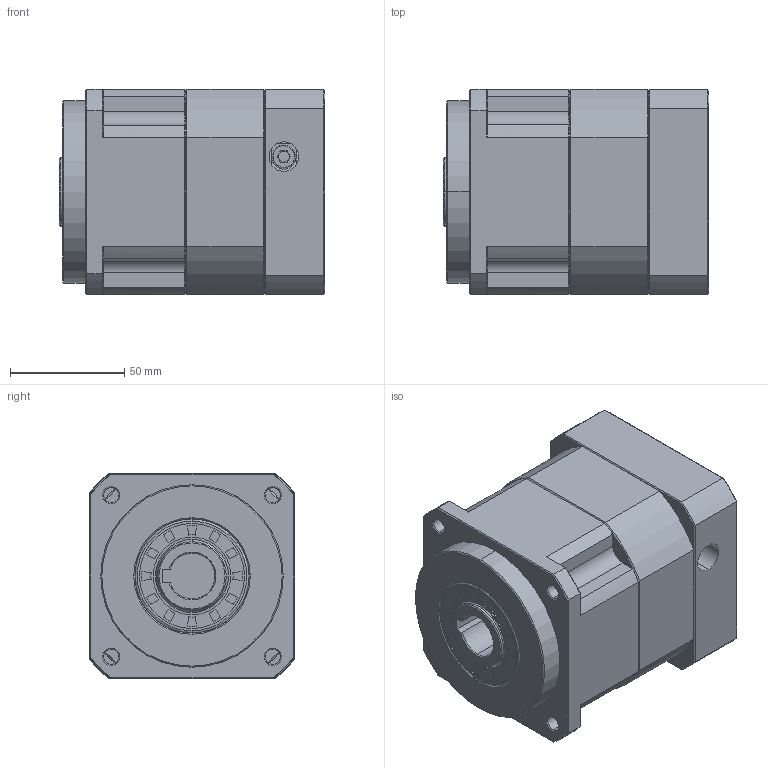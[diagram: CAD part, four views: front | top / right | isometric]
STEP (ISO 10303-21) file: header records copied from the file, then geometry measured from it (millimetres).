
FILE_DESCRIPTION (( 'STEP AP214' ), '1' );
FILE_NAME ('ZPB090-K20-L1-P1-19-70-90-M6.step', '2024-06-07T18:24:16', ( 'Windows 蚚誧' ), ( 'Organization' ), 'SwSTEP 2.0', 'SolidWorks 2016', '' );
FILE_SCHEMA (( 'AUTOMOTIVE_DESIGN' ));
Length unit declared in the file: millimetre
Products named in the file (1): ZPB090-K20-L1-P1-19-70-90-M6
Bounding box: 116.5 x 90 x 90 mm (x, y, z)
Surface area: 74986.8 mm2 (no closed solid volume)
Topology: 0 solids, 34 shells, 1795 faces, 4793 edges, 3064 vertices
Faces by surface type: plane 929, bspline 383, cone 270, cylinder 213
Entity records: 86702 total; most frequent: CARTESIAN_POINT 40183, ORIENTED_EDGE 9566, DIRECTION 7362, EDGE_CURVE 4793, VECTOR 3178, LINE 3178, VERTEX_POINT 3064, AXIS2_PLACEMENT_3D 2092
